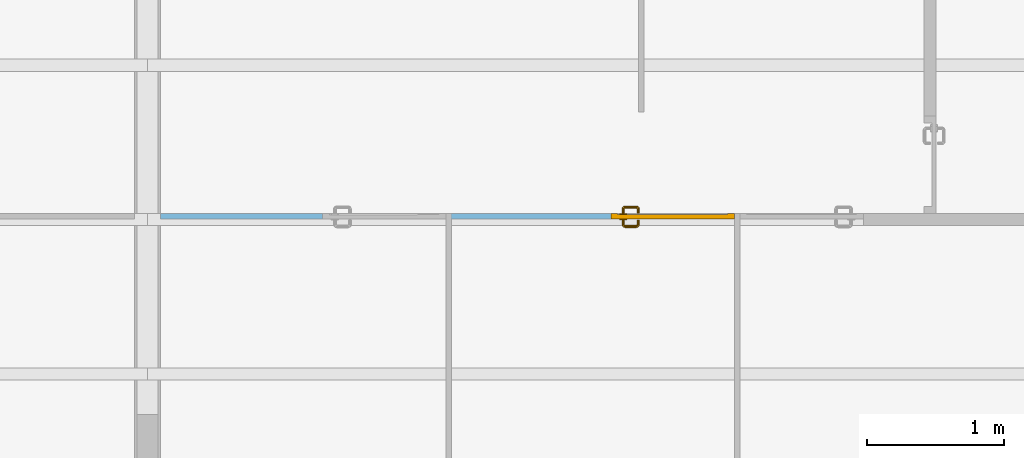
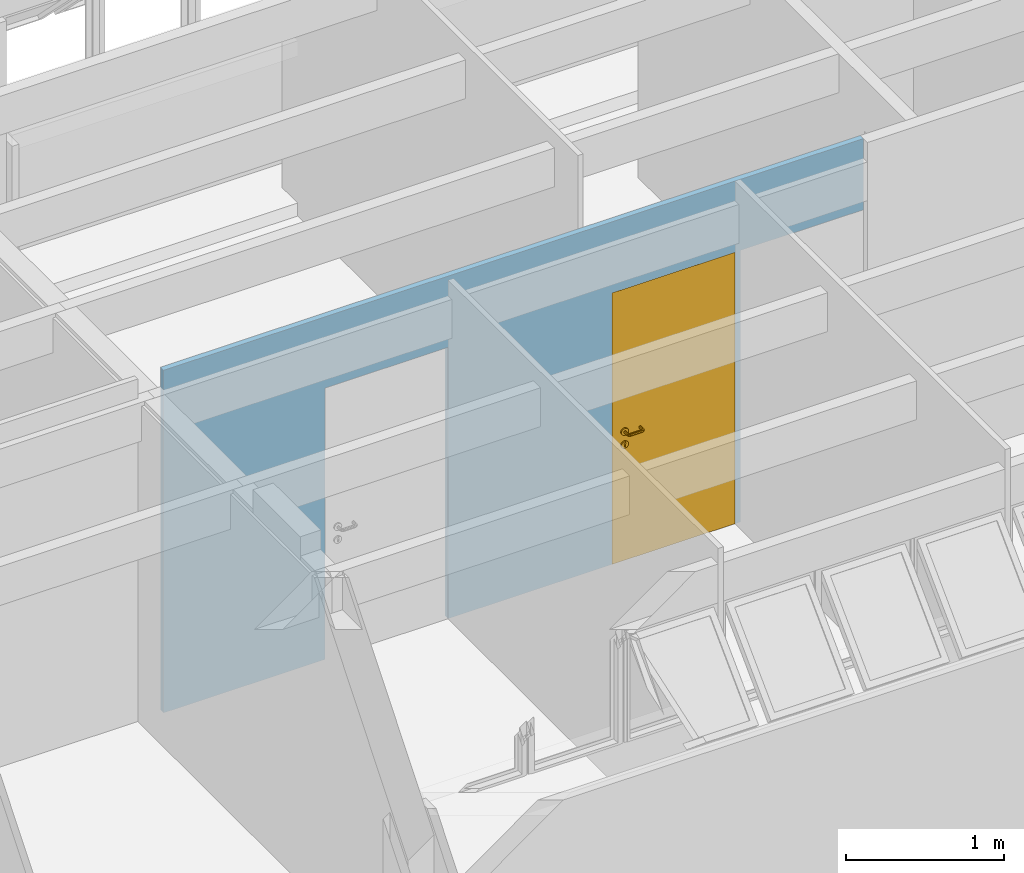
# One storey, part 5 of 22: 1 door, 3 openings, plus 1 element that does not belong to this part.
"""IFC2X3 building model written with IfcOpenShell, lengths in millimetres."""

import ifcopenshell
import ifcopenshell.guid

model = None  # the IFC model being written
_history = None  # IfcOwnerHistory: only IFC2X3 demands one
_inside = {}  # id of a spatial element -> (the spatial element, [elements in it])
_under = {}  # id of a project, library or spatial element -> (it, [spatial elements below it])
_declared = {}  # id of a project -> (the project, [libraries it declares])
_typed = {}  # id of a type object -> (the type object, [elements of that type])
_made_of = {}  # id of a material, layer set ... -> (it, [elements and type objects made of it])


def new_model(schema):
    """Start an empty IFC model of exactly this schema.

    Asked for "IFC4X3", IfcOpenShell would pick the latest addendum, in which some entities
    have other attributes; the version numbers below select the first issue.
    IFC2X3 requires an IfcOwnerHistory on every rooted entity: one is made here for all.
    """
    global model, _history
    if schema == "IFC4X3":
        model = ifcopenshell.file(schema_version=(4, 3, 0, 0))
    else:
        model = ifcopenshell.file(schema=schema)
    _inside.clear()
    _under.clear()
    _declared.clear()
    _typed.clear()
    _made_of.clear()
    _history = None
    if model.schema == "IFC2X3":
        org = make("IfcOrganization", Name="unknown")
        user = make(
            "IfcPersonAndOrganization",
            ThePerson=make("IfcPerson", FamilyName="unknown"),
            TheOrganization=org,
        )
        app = make(
            "IfcApplication",
            ApplicationDeveloper=org,
            Version="unknown",
            ApplicationFullName="unknown",
            ApplicationIdentifier="unknown",
        )
        _history = make(
            "IfcOwnerHistory",
            OwningUser=user,
            OwningApplication=app,
            ChangeAction="ADDED",
            CreationDate=0,
        )
    return model


def make(cls, **values):
    """One entity of the class cls with the attributes given. An attribute that is None is left unset."""
    return model.create_entity(
        cls, **{name: value for name, value in values.items() if value is not None}
    )


def rooted(cls, **values):
    """An entity with a GlobalId (a new one), such as an element, a storey or a relation."""
    return make(cls, GlobalId=ifcopenshell.guid.new(), OwnerHistory=_history, **values)


def si_unit(unit_type, name, prefix=None):
    """IfcSIUnit, for example si_unit("LENGTHUNIT", "METRE", prefix="MILLI")."""
    return make("IfcSIUnit", UnitType=unit_type, Prefix=prefix, Name=name)


def assignment(units):
    """IfcUnitAssignment: the units of a project."""
    return None if units is None else make("IfcUnitAssignment", Units=units)


def point(xyz):
    """IfcCartesianPoint."""
    return None if xyz is None else make("IfcCartesianPoint", Coordinates=xyz)


def direction(xyz):
    """IfcDirection."""
    return None if xyz is None else make("IfcDirection", DirectionRatios=xyz)


def frame(location, z_axis=None, x_axis=None):
    """IfcAxis2Placement3D, a coordinate frame: its origin and axes. An axis left out is left unset."""
    return make(
        "IfcAxis2Placement3D",
        Location=point(location),
        Axis=direction(z_axis),
        RefDirection=direction(x_axis),
    )


def frame_2d(location, x_axis=None):
    """IfcAxis2Placement2D, a coordinate frame in the plane: its origin and x axis."""
    return make(
        "IfcAxis2Placement2D", Location=point(location), RefDirection=direction(x_axis)
    )


def origin_with_axes():
    """The frame at (0, 0, 0) with the z axis (0, 0, 1) and the x axis (1, 0, 0) written out."""
    return frame((0.0, 0.0, 0.0), z_axis=(0.0, 0.0, 1.0), x_axis=(1.0, 0.0, 0.0))


def place(relative_to, where):
    """IfcLocalPlacement: puts the frame where relative to a parent placement (None: the world)."""
    return make(
        "IfcLocalPlacement", PlacementRelTo=relative_to, RelativePlacement=where
    )


def context(
    kind, dimensions, precision=None, world=None, true_north=None, identifier=None
):
    """IfcGeometricRepresentationContext, for example the 3D "Model" context."""
    return make(
        "IfcGeometricRepresentationContext",
        ContextIdentifier=identifier,
        ContextType=kind,
        CoordinateSpaceDimension=dimensions,
        Precision=precision,
        WorldCoordinateSystem=world,
        TrueNorth=true_north,
    )


def subcontext(parent, identifier, kind, view, scale=None):
    """IfcGeometricRepresentationSubContext, for example "Body" below "Model"."""
    return make(
        "IfcGeometricRepresentationSubContext",
        ContextIdentifier=identifier,
        ContextType=kind,
        ParentContext=parent,
        TargetScale=scale,
        TargetView=view,
    )


def project(units=None, contexts=None):
    """IfcProject with its units and contexts."""
    return rooted(
        "IfcProject",
        Name="project",
        RepresentationContexts=contexts,
        UnitsInContext=assignment(units),
    )


def spatial(cls, under=None, at=None, **own):
    """A site, building, storey or space (cls), placed at a placement, below another one or the project."""
    s = rooted(cls, ObjectPlacement=at, **own)
    if under is not None:
        _under.setdefault(under.id(), (under, []))[1].append(s)
    return s


def polyline(points):
    """IfcPolyline through the points."""
    return make("IfcPolyline", Points=[point(p) for p in points])


def profile(cls, at=None, kind="AREA", **sizes):
    """A parametric profile (cls). Its sizes go by their IFC names, for example OverallWidth=200.0."""
    return make(cls, ProfileType=kind, Position=at, **sizes)


def rectangle(**sizes):
    """IfcRectangleProfileDef."""
    return profile("IfcRectangleProfileDef", **sizes)


def outline(outer, holes=None, kind="AREA"):
    """IfcArbitraryClosedProfileDef: a profile drawn as a closed curve; with holes, ...WithVoids."""
    if holes is None:
        return make("IfcArbitraryClosedProfileDef", ProfileType=kind, OuterCurve=outer)
    return make(
        "IfcArbitraryProfileDefWithVoids",
        ProfileType=kind,
        OuterCurve=outer,
        InnerCurves=holes,
    )


def extrude(swept, where, along, depth):
    """IfcExtrudedAreaSolid: the profile swept, set in the frame where, extruded along a direction by depth."""
    return make(
        "IfcExtrudedAreaSolid",
        SweptArea=swept,
        Position=where,
        ExtrudedDirection=direction(along),
        Depth=depth,
    )


def faces_of(points, faces, orient=None, outer=None):
    """IfcFace entities. A face is a list of loops; a loop is a list of indices into points, from 0.

    orient and outer hold one flag for each loop. By default every Orientation is true, the
    first loop of a face is its IfcFaceOuterBound and the others are IfcFaceBound.
    """
    made = []
    for i, loops in enumerate(faces):
        bounds = []
        for j, loop in enumerate(loops):
            is_outer = j == 0 if outer is None else outer[i][j]
            bounds.append(
                make(
                    "IfcFaceOuterBound" if is_outer else "IfcFaceBound",
                    Bound=make("IfcPolyLoop", Polygon=[points[k] for k in loop]),
                    Orientation=True if orient is None else orient[i][j],
                )
            )
        made.append(make("IfcFace", Bounds=bounds))
    return made


def open_shell(faces, orient=None, outer=None):
    """The faces of one IfcOpenShell. surface_model builds it on its shared points."""
    return ("IfcOpenShell", faces, orient, outer)


def faceted_brep(points, faces, orient=None, outer=None, voids=None):
    """IfcFacetedBrep: a solid bounded by flat faces; with voids (closed shells), ...WithVoids."""
    shared = [point(p) for p in points]
    hull = make("IfcClosedShell", CfsFaces=faces_of(shared, faces, orient, outer))
    if voids is None:
        return make("IfcFacetedBrep", Outer=hull)
    return make(
        "IfcFacetedBrepWithVoids",
        Outer=hull,
        Voids=[
            make(cls, CfsFaces=faces_of(shared, fs, o, b)) for cls, fs, o, b in voids
        ],
    )


def surface_model(cls, points, shells):
    """IfcFaceBasedSurfaceModel or IfcShellBasedSurfaceModel (cls): surfaces that need not close."""
    shared = [point(p) for p in points]
    made = [make(c, CfsFaces=faces_of(shared, fs, o, b)) for c, fs, o, b in shells]
    if cls == "IfcFaceBasedSurfaceModel":
        return make(cls, FbsmFaces=made)
    return make(cls, SbsmBoundary=made)


def shape(context_of_items, identifier, shape_type, items):
    """IfcShapeRepresentation: the items that make up one representation, for example the "Body"."""
    return make(
        "IfcShapeRepresentation",
        ContextOfItems=context_of_items,
        RepresentationIdentifier=identifier,
        RepresentationType=shape_type,
        Items=items,
    )


def source(mapping_origin, context_of_items, identifier, shape_type, items):
    """IfcRepresentationMap: a shape defined once, which mapped items show again and again."""
    return make(
        "IfcRepresentationMap",
        MappingOrigin=mapping_origin,
        MappedRepresentation=shape(context_of_items, identifier, shape_type, items),
    )


def transform(
    local_origin,
    x_axis=None,
    y_axis=None,
    z_axis=None,
    scale=None,
    scale2=None,
    scale3=None,
    uniform=True,
):
    """IfcCartesianTransformationOperator3D, or its non-uniform kind. x_axis, y_axis, z_axis: its Axis1, 2, 3."""
    if uniform:
        return make(
            "IfcCartesianTransformationOperator3D",
            Axis1=direction(x_axis),
            Axis2=direction(y_axis),
            LocalOrigin=point(local_origin),
            Scale=scale,
            Axis3=direction(z_axis),
        )
    return make(
        "IfcCartesianTransformationOperator3DnonUniform",
        Axis1=direction(x_axis),
        Axis2=direction(y_axis),
        LocalOrigin=point(local_origin),
        Scale=scale,
        Axis3=direction(z_axis),
        Scale2=scale2,
        Scale3=scale3,
    )


def mapped(mapping_source, mapping_target):
    """IfcMappedItem: shows the shape of a source again, moved by a transform."""
    return make(
        "IfcMappedItem", MappingSource=mapping_source, MappingTarget=mapping_target
    )


def material(Name=None, Category=None):
    """IfcMaterial."""
    return make("IfcMaterial", Name=Name, Category=Category)


def layer(
    of_material, thickness, ventilated=None, Name=None, Category=None, Priority=None
):
    """IfcMaterialLayer: one layer of a wall or slab, of a material (None: an air gap)."""
    return make(
        "IfcMaterialLayer",
        Material=of_material,
        LayerThickness=thickness,
        IsVentilated=ventilated,
        Name=Name,
        Category=Category,
        Priority=Priority,
    )


def layer_set(layers, Name=None):
    """IfcMaterialLayerSet."""
    return make("IfcMaterialLayerSet", MaterialLayers=layers, LayerSetName=Name)


def layer_usage(for_layer_set, set_direction, sense, offset, extent=None):
    """IfcMaterialLayerSetUsage: how a layer set lies in its element."""
    return make(
        "IfcMaterialLayerSetUsage",
        ForLayerSet=for_layer_set,
        LayerSetDirection=set_direction,
        DirectionSense=sense,
        OffsetFromReferenceLine=offset,
        ReferenceExtent=extent,
    )


def made_of(thing, what):
    """Note that an element or type object is made of a material, layer set ...; save() writes the relation."""
    if what is not None:
        _made_of.setdefault(what.id(), (what, []))[1].append(thing)
    return thing


def type_object(cls, material=None, **own):
    """A type object (cls), such as IfcWallType, which elements share."""
    return made_of(rooted(cls, **own), material)


def type_shapes(of_type, sources):
    """Give a type object the sources (RepresentationMaps) that its elements show as mapped items."""
    of_type.RepresentationMaps = sources


def element(
    cls,
    number,
    at=None,
    inside=None,
    cuts=None,
    type_object=None,
    material=None,
    context=None,
    identifier="Body",
    shape_type=None,
    held_by="IfcProductDefinitionShape",
    body=None,
    shapes=None,
    **own,
):
    """One element of the class cls, such as IfcWall. Its Tag is "e" and its number.

    at: its placement. inside: the storey or other place that contains it. cuts: it is an
    opening in that element (IfcRelVoidsElement). A single representation is given by context,
    identifier, shape_type and body (its items); several are given by shapes. held_by: the class
    of the entity that holds the representations. save() writes the other relations.
    """
    e = rooted(cls, Tag="e%d" % number, ObjectPlacement=at, **own)
    if body is not None:
        shapes = [shape(context, identifier, shape_type, body)]
    if shapes is not None:
        e.Representation = make(held_by, Representations=shapes)
    if inside is not None:
        _inside.setdefault(inside.id(), (inside, []))[1].append(e)
    if cuts is not None:
        rooted(
            "IfcRelVoidsElement", RelatingBuildingElement=cuts, RelatedOpeningElement=e
        )
    if type_object is not None:
        _typed.setdefault(type_object.id(), (type_object, []))[1].append(e)
    return made_of(e, material)


def fill(opening, filler):
    """IfcRelFillsElement: the door or window that sits in an opening."""
    return rooted(
        "IfcRelFillsElement",
        RelatingOpeningElement=opening,
        RelatedBuildingElement=filler,
    )


def aggregate(whole, parts):
    """IfcRelAggregates: a whole, such as a stair, and the parts it consists of."""
    return rooted("IfcRelAggregates", RelatingObject=whole, RelatedObjects=parts)


def save(model, path):
    """Write the relations noted so far, then the file.

    IfcRelAggregates (storeys below a building ...), IfcRelContainedInSpatialStructure (elements
    in a storey), IfcRelDefinesByType, IfcRelAssociatesMaterial and IfcRelDeclares: one each for
    every whole, place, type object, material and project.
    """
    for whole, parts in _under.values():
        aggregate(whole, parts)
    for where, things in _inside.values():
        rooted(
            "IfcRelContainedInSpatialStructure",
            RelatedElements=things,
            RelatingStructure=where,
        )
    for kind, things in _typed.values():
        rooted("IfcRelDefinesByType", RelatedObjects=things, RelatingType=kind)
    for what, things in _made_of.values():
        rooted("IfcRelAssociatesMaterial", RelatedObjects=things, RelatingMaterial=what)
    for by, libraries in _declared.values():
        rooted("IfcRelDeclares", RelatingContext=by, RelatedDefinitions=libraries)
    model.write(path)


model = new_model("IFC2X3")

# Units and contexts
model_context = context("Model", 3, precision=1e-05, world=origin_with_axes(), true_north=direction((0.0, 1.0)))
body_context = subcontext(model_context, "Body", "Model", "MODEL_VIEW")
ifc_project = project(units=[si_unit("LENGTHUNIT", "METRE", prefix="MILLI"), si_unit("AREAUNIT", "SQUARE_METRE"), si_unit("VOLUMEUNIT", "CUBIC_METRE"), si_unit("PLANEANGLEUNIT", "RADIAN"), si_unit("TIMEUNIT", "SECOND"), si_unit("MASSUNIT", "GRAM")], contexts=[model_context])

# Site, building, storey
site_placement = place(None, origin_with_axes())
site = spatial("IfcSite", under=ifc_project, at=site_placement, Name="Site", CompositionType="ELEMENT")
building_placement = place(site_placement, origin_with_axes())
building = spatial("IfcBuilding", under=site, at=building_placement, Name="Construção", CompositionType="COMPLEX")
storey_placement = place(building_placement, frame((0.0, 0.0, 2650.0), z_axis=(0.0, 0.0, 1.0), x_axis=(1.0, 0.0, 0.0)))
storey = spatial("IfcBuildingStorey", under=building, at=storey_placement, Name="Segundo Pavimento", CompositionType="COMPLEX", Elevation=2650.0)

# Wall, openings, door
ifc_material = material(Name="GENÉRICO - VEDAÇÃO EXTERNA")
ifc_layer = layer(ifc_material, 40.0)
ifc_layer_set = layer_set([ifc_layer], Name="GENÉRICO - VEDAÇÃO EXTERNA 40")
ifc_layer_usage = layer_usage(ifc_layer_set, "AXIS2", "POSITIVE", 0.0)
wall_type = type_object("IfcWallType", Name="GENÉRICO - VEDAÇÃO EXTERNA 40", PredefinedType="STANDARD", material=ifc_layer_set)
wall_placement = place(storey_placement, frame((12600.0, 3765.2195667, 0.0), z_axis=(0.0, 0.0, 1.0), x_axis=(-0.9999999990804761, -4.288412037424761e-05, 0.0)))
wall = element("IfcWallStandardCase", 1, at=wall_placement, inside=storey, type_object=wall_type, material=ifc_layer_usage, Name="APTO6-PAREDE-006", context=body_context, shape_type="SweptSolid", body=[
    extrude(outline(polyline([(-2559.999787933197, 20.0), (2560.001074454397, 19.99999999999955), (2559.999359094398, -20.0), (-2560.000645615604, -20.0), (-2559.999787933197, 20.0)])), frame((2560.000645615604, 20.0, 0.0), z_axis=(0.0, 0.0, 1.0), x_axis=(1.0, 0.0, 0.0)), (0.0, 0.0, 1.0), 2650.0),
])
opening_1_placement = place(wall_placement, frame((1840.000004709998, 40.0, 0.0), z_axis=(0.0, 0.0, 1.0), x_axis=(-1.0, 0.0, 0.0)))
opening_1 = element("IfcOpeningElement", 2, at=opening_1_placement, cuts=wall, ObjectType="Opening", context=body_context, shape_type="SweptSolid", body=[
    extrude(outline(polyline([(450.0, 1050.0), (450.0, -1050.0), (-450.0, -1050.0), (-450.0, 1050.0), (450.0, 1050.0)])), frame((450.0, 1.364242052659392e-12, 1050.000000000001), z_axis=(0.0, 1.0, 0.0), x_axis=(1.0, 0.0, 0.0)), (0.0, 0.0, 1.0), 120.0),
])
opening_2_placement = place(wall_placement, frame((900.0000047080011, 40.0, 0.0), z_axis=(0.0, 0.0, 1.0), x_axis=(-1.0, 0.0, 0.0)))
element("IfcOpeningElement", 3, at=opening_2_placement, cuts=wall, ObjectType="Opening", context=body_context, shape_type="SweptSolid", body=[
    extrude(outline(polyline([(-450.0, -1050.0), (-450.0, 1050.0), (450.0, 1050.0), (450.0, -1050.0), (-450.0, -1050.0)])), frame((450.0, 1.364242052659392e-12, 1050.000000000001), z_axis=(0.0, 1.0, 0.0), x_axis=(1.0, 0.0, 0.0)), (0.0, 0.0, 1.0), 120.0),
])
opening_3_placement = place(wall_placement, frame((3940.00000471, 40.0, 0.0), z_axis=(0.0, 0.0, 1.0), x_axis=(-1.0, 0.0, 0.0)))
element("IfcOpeningElement", 4, at=opening_3_placement, cuts=wall, ObjectType="Opening", context=body_context, shape_type="SweptSolid", body=[
    extrude(outline(polyline([(450.0, 1050.0), (450.0, -1050.0), (-450.0, -1050.0), (-450.0, 1050.0), (450.0, 1050.0)])), frame((450.0, 1.364242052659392e-12, 1050.000000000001), z_axis=(0.0, 1.0, 0.0), x_axis=(1.0, 0.0, 0.0)), (0.0, 0.0, 1.0), 120.0),
])
door_style = type_object("IfcDoorStyle", Name="Porta 25", ConstructionType="NOTDEFINED", OperationType="SINGLE_SWING_LEFT", ParameterTakesPrecedence=False, Sizeable=False)
shared_shape_1 = source(origin_with_axes(), body_context, "Body", "SolidModel", [
    extrude(outline(polyline([(10.0, 6.666666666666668), (10.0, -23.33333333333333), (-30.0, -23.33333333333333), (-30.0, 16.66666666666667), (20.0, 16.66666666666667), (20.0, 6.666666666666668), (10.0, 6.666666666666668)])), frame((29.9999999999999, 0.0, -23.33333333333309), z_axis=(0.0, 1.0, 0.0), x_axis=(1.0, 0.0, 0.0)), (0.0, 0.0, 1.0), 2050.0),
])
shared_shape_2 = source(origin_with_axes(), body_context, "Body", "SolidModel", [
    extrude(outline(polyline([(-10.0, 6.666666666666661), (-20.0, 6.666666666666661), (-20.0, 16.66666666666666), (30.0, 16.66666666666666), (30.0, -23.33333333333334), (-10.0, -23.33333333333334), (-10.0, 6.666666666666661)])), frame((869.9999999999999, 0.0, -23.3333333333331), z_axis=(0.0, 1.0, 0.0), x_axis=(1.0, 0.0, 0.0)), (0.0, 0.0, 1.0), 2050.0),
])
shared_shape_3 = source(origin_with_axes(), body_context, "Body", "SolidModel", [
    faceted_brep([(899.9999999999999, 2050.0, -39.99999999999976), (0.0, 2050.0, -39.99999999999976), (0.0, 2100.0, -39.99999999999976), (899.9999999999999, 2100.0, -39.99999999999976), (859.9999999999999, 2050.0, -29.99999999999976), (859.9999999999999, 2060.0, -29.99999999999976), (39.99999999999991, 2060.0, -29.99999999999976), (39.99999999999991, 2050.0, -29.99999999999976), (39.99999999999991, 2050.0, 0.0), (39.99999999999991, 2060.0, 0.0), (0.0, 2050.0, 0.0), (0.0, 2100.0, 0.0), (899.9999999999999, 2100.0, 0.0), (899.9999999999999, 2050.0, 0.0), (859.9999999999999, 2050.0, 0.0), (859.9999999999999, 2060.0, 0.0)], [[[0, 1, 2, 3]], [[4, 5, 6, 7]], [[8, 7, 6, 9]], [[10, 11, 2, 1]], [[11, 12, 3, 2]], [[12, 13, 0, 3]], [[4, 7, 8, 10, 1, 0, 13, 14]], [[15, 5, 4, 14]], [[9, 6, 5, 15]], [[9, 15, 14, 13, 12, 11, 10, 8]]]),
])
shared_shape_4 = source(origin_with_axes(), body_context, "Body", "SolidModel", [
    extrude(outline(polyline([(0.0, 27.00000000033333), (13.49999999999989, 23.38268590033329), (23.38268590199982, 13.50000000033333), (26.99999999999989, 3.333298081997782e-10), (23.38268590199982, -13.49999999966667), (13.49999999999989, -23.38268590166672), (0.0, -26.99999999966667), (-13.50000000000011, -23.38268590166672), (-23.38268590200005, -13.49999999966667), (-27.0, 3.333298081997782e-10), (-23.38268590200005, 13.50000000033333), (-13.50000000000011, 23.38268590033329), (0.0, 27.00000000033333)])), frame((90.0, 999.9999999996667, -40.0), z_axis=(0.0, 0.0, 1.0), x_axis=(1.0, 0.0, 0.0)), (0.0, 0.0, 1.0), 10.0),
])
shared_shape_5 = source(origin_with_axes(), body_context, "Body", "SolidModel", [
    faceted_brep([(67.48333950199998, 913.0, -39.0), (67.48333950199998, 913.0, -30.0), (64.0, 900.0, -30.0), (64.0, 900.0, -39.0), (67.48333950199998, 887.0, -39.0), (67.48333950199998, 887.0, -30.0), (77.0, 877.483339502, -30.0), (77.0, 877.483339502, -39.0), (66.61731409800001, 886.5, -30.0), (66.61731409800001, 886.5, -40.0), (76.5, 876.617314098, -40.0), (76.5, 876.617314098, -30.0), (63.0, 900.0, -30.0), (63.0, 900.0, -40.0), (76.5, 923.382685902, -30.0), (76.5, 923.382685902, -40.0), (66.61731409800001, 913.5, -40.0), (66.61731409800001, 913.5, -30.0), (90.0, 874.0, -30.0), (90.0, 874.0, -39.0), (90.0, 926.0, -30.0), (103.0, 922.516660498, -30.0), (112.516660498, 913.0, -30.0), (116.0, 900.0, -30.0), (112.516660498, 887.0, -30.0), (103.0, 877.483339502, -30.0), (77.0, 922.516660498, -30.0), (113.382685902, 913.5, -30.0), (103.5, 923.382685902, -30.0), (90.0, 927.0, -30.0), (90.0, 873.0, -30.0), (103.5, 876.617314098, -30.0), (113.382685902, 886.5, -30.0), (117.0, 900.0, -30.0), (90.0, 873.0, -40.0), (77.0, 922.516660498, -39.0), (103.5, 876.617314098, -40.0), (113.382685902, 886.5, -40.0), (117.0, 900.0, -40.0), (112.516660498, 887.0, -39.0), (116.0, 900.0, -39.0), (103.0, 877.483339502, -39.0), (82.53216922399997, 909.692280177, -40.0), (82.53216922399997, 909.692280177, -39.0), (85.0, 904.4, -39.0), (85.0, 904.4, -40.0), (90.0, 927.0, -40.0), (112.516660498, 913.0, -39.0), (90.0, 926.0, -39.0), (103.0, 922.516660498, -39.0), (85.0, 887.5, -39.0), (85.0, 887.5, -40.0), (86.46446609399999, 883.964466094, -40.0), (86.46446609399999, 883.964466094, -39.0), (90.0, 882.5, -40.0), (90.0, 882.5, -39.0), (93.53553390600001, 883.964466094, -40.0), (93.53553390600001, 883.964466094, -39.0), (95.0, 887.5, -40.0), (95.0, 887.5, -39.0), (84.62481768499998, 915.143815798, -40.0), (84.62481768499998, 915.143815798, -39.0), (83.279754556, 911.639806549, -39.0), (83.279754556, 911.639806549, -40.0), (90.0, 917.425445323, -40.0), (90.0, 917.425445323, -39.0), (103.5, 923.382685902, -40.0), (113.382685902, 913.5, -40.0), (95.37518231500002, 915.143815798, -40.0), (95.37518231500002, 915.143815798, -39.0), (96.720245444, 911.639806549, -39.0), (97.46783077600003, 909.692280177, -39.0), (95.0, 904.4, -39.0), (95.0, 904.4, -40.0), (97.46783077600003, 909.692280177, -40.0), (96.720245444, 911.639806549, -40.0)], [[[0, 1, 2, 3]], [[4, 5, 6, 7]], [[3, 2, 5, 4]], [[8, 9, 10, 11]], [[12, 13, 9, 8]], [[14, 15, 16, 17]], [[7, 6, 18, 19]], [[20, 21, 22, 23, 24, 25, 18, 6, 5, 2, 1, 26], [27, 28, 29, 14, 17, 12, 8, 11, 30, 31, 32, 33]], [[17, 16, 13, 12]], [[11, 10, 34, 30]], [[35, 26, 1, 0]], [[30, 34, 36, 31]], [[31, 36, 37, 32]], [[32, 37, 38, 33]], [[39, 24, 23, 40]], [[41, 25, 24, 39]], [[42, 43, 44, 45]], [[29, 46, 15, 14]], [[40, 23, 22, 47]], [[48, 20, 26, 35]], [[47, 22, 21, 49]], [[19, 18, 25, 41]], [[44, 50, 51, 45]], [[52, 51, 50, 53]], [[54, 52, 53, 55]], [[49, 21, 20, 48]], [[56, 54, 55, 57]], [[58, 56, 57, 59]], [[60, 61, 62, 43, 42, 63]], [[64, 65, 61, 60]], [[28, 66, 46, 29]], [[33, 38, 67, 27]], [[27, 67, 66, 28]], [[68, 69, 65, 64]], [[47, 49, 48, 35, 0, 3, 4, 7, 19, 41, 39, 40], [69, 70, 71, 72, 59, 57, 55, 53, 50, 44, 43, 62, 61, 65]], [[73, 72, 71, 74]], [[73, 58, 59, 72]], [[74, 71, 70, 69, 68, 75]], [[66, 67, 38, 37, 36, 34, 10, 9, 13, 16, 15, 46], [74, 75, 68, 64, 60, 63, 42, 45, 51, 52, 54, 56, 58, 73]]], outer=[[True], [True], [True], [True], [True], [True], [True], [False, True], [True], [True], [True], [True], [True], [True], [True], [True], [True], [True], [True], [True], [True], [True], [True], [True], [True], [True], [True], [True], [True], [True], [True], [True], [True], [True], [True, False], [True], [True], [True], [True, False]]),
])
shared_shape_6 = source(origin_with_axes(), body_context, "Body", "SurfaceModel", [
    surface_model("IfcShellBasedSurfaceModel", [(190.0, 1000.0, -69.0150859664), (190.0, 1000.0, -40.0), (192.928932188, 1007.07106781, -40.0), (192.928932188, 1007.07106781, -69.303560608), (189.438398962, 1000.0, -71.83844504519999), (192.197392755, 1007.07106781, -72.9812576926), (192.928932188, 992.928932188, -69.303560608), (192.928932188, 992.928932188, -40.0), (192.197392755, 992.928932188, -72.9812576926), (200.0, 990.0, -70.0), (200.0, 990.0, -40.0), (200.0, 1010.0, -40.0), (200.0, 1010.0, -70.0), (207.071067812, 992.928932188, -70.696439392), (207.071067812, 992.928932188, -40.0), (210.0, 1000.0, -40.0), (207.071067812, 1007.07106781, -40.0), (205.518993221, 992.928932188, -78.49924527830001), (198.858192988, 990.0, -75.74025148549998), (210.0, 1000.0, -70.9849140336), (208.277987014, 1000.0, -79.6420579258), (207.071067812, 1007.07106781, -70.696439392), (205.518993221, 1007.07106781, -78.49924527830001), (200.704557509, 1007.07106781, -85.70455750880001), (202.816199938, 1000.0, -87.8161999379), (198.858192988, 1010.0, -75.74025148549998), (195.606601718, 1010.0, -80.6066017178), (190.740251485, 1010.0, -83.8581929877), (193.499245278, 1007.07106781, -90.51899322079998), (190.508645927, 1007.07106781, -75.5086459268), (187.981257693, 1007.07106781, -77.19739275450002), (188.397003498, 1000.0, -73.39700349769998), (186.838445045, 1000.0, -74.43839896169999), (190.508645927, 992.928932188, -75.5086459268), (200.704557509, 992.928932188, -85.70455750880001), (195.606601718, 990.0, -80.6066017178), (187.981257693, 992.928932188, -77.19739275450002), (184.303560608, 992.928932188, -77.92893218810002), (184.015085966, 1000.0, -75.0), (190.740251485, 990.0, -83.8581929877), (184.303560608, 1007.07106781, -77.92893218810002), (185.0, 1010.0, -85.0), (105.984914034, 1000.0, -75.0), (105.696439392, 1007.07106781, -77.92893218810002), (105.0, 1010.0, -85.0), (185.696439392, 1007.07106781, -92.07106781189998), (104.303560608, 1007.07106781, -92.07106781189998), (105.696439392, 992.928932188, -77.92893218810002), (185.0, 990.0, -85.0), (102.018742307, 1007.07106781, -77.19739275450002), (99.25974851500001, 1010.0, -83.8581929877), (193.499245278, 992.928932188, -90.51899322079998), (105.0, 990.0, -85.0), (102.018742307, 992.928932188, -77.19739275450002), (103.161554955, 1000.0, -74.43839896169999), (99.491354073, 992.928932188, -75.5086459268), (101.602996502, 1000.0, -73.39700349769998), (99.491354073, 1007.07106781, -75.5086459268), (194.642057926, 1000.0, -93.2779870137), (185.696439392, 992.928932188, -92.07106781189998), (185.984914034, 1000.0, -95.0), (104.015085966, 1000.0, -95.0), (104.303560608, 992.928932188, -92.07106781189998), (99.25974851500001, 990.0, -83.8581929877), (95.357942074, 1000.0, -93.2779870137), (96.50075472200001, 992.928932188, -90.51899322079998), (96.50075472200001, 1007.07106781, -90.51899322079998), (89.29544249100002, 1007.07106781, -85.70455750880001), (87.18380006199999, 1000.0, -87.8161999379), (94.39339828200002, 1010.0, -80.6066017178), (97.80260724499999, 1007.07106781, -72.9812576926), (91.14180701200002, 1010.0, -75.74025148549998), (84.48100677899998, 1007.07106781, -78.49924527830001), (94.39339828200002, 990.0, -80.6066017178), (91.14180701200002, 990.0, -75.74025148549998), (97.80260724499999, 992.928932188, -72.9812576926), (89.29544249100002, 992.928932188, -85.70455750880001), (100.561601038, 1000.0, -71.83844504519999), (97.07106781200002, 992.928932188, -69.303560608), (100.0, 1000.0, -69.0150859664), (97.07106781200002, 1007.07106781, -69.303560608), (97.07106781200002, 992.928932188, -40.0), (100.0, 1000.0, -40.0), (90.0, 1010.0, -70.0), (97.07106781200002, 1007.07106781, -40.0), (90.0, 1010.0, -40.0), (82.92893218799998, 1007.07106781, -70.696439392), (82.92893218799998, 1007.07106781, -40.0), (90.0, 990.0, -40.0), (90.0, 990.0, -70.0), (84.48100677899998, 992.928932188, -78.49924527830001), (81.72201298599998, 1000.0, -79.6420579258), (82.92893218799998, 992.928932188, -70.696439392), (80.0, 1000.0, -70.9849140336), (82.92893218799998, 992.928932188, -40.0), (80.0, 1000.0, -40.0)], [open_shell([[[0, 1, 2, 3]], [[4, 0, 3, 5]], [[6, 7, 1, 0]], [[8, 6, 0, 4]], [[9, 10, 7, 6]], [[3, 2, 11, 12]], [[13, 14, 10, 9]], [[15, 16, 11, 2, 1, 7, 10, 14]], [[17, 13, 9, 18]], [[19, 15, 14, 13]], [[20, 19, 13, 17]], [[21, 16, 15, 19]], [[22, 21, 19, 20]], [[12, 11, 16, 21]], [[23, 22, 20, 24]], [[25, 12, 21, 22]], [[26, 25, 22, 23]], [[5, 3, 12, 25]], [[27, 26, 23, 28]], [[29, 5, 25, 26]], [[30, 29, 26, 27]], [[31, 4, 5, 29]], [[32, 31, 29, 30]], [[33, 8, 4, 31]], [[18, 9, 6, 8]], [[34, 17, 18, 35]], [[36, 33, 31, 32]], [[35, 18, 8, 33]], [[37, 36, 32, 38]], [[39, 35, 33, 36]], [[38, 32, 30, 40]], [[40, 30, 27, 41]], [[42, 38, 40, 43]], [[44, 41, 45, 46]], [[47, 37, 38, 42]], [[48, 39, 36, 37]], [[43, 40, 41, 44]], [[49, 43, 44, 50]], [[51, 34, 35, 39]], [[24, 20, 17, 34]], [[52, 48, 37, 47]], [[53, 47, 42, 54]], [[54, 42, 43, 49]], [[55, 53, 54, 56]], [[56, 54, 49, 57]], [[28, 23, 24, 58]], [[41, 27, 28, 45]], [[59, 51, 39, 48]], [[58, 24, 34, 51]], [[45, 28, 58, 60]], [[60, 58, 51, 59]], [[46, 45, 60, 61]], [[61, 60, 59, 62]], [[63, 52, 47, 53]], [[62, 59, 48, 52]], [[64, 61, 62, 65]], [[65, 62, 52, 63]], [[66, 46, 61, 64]], [[67, 66, 64, 68]], [[50, 44, 46, 66]], [[57, 49, 50, 69]], [[69, 50, 66, 67]], [[70, 57, 69, 71]], [[71, 69, 67, 72]], [[73, 63, 53, 55]], [[74, 73, 55, 75]], [[76, 65, 63, 73]], [[75, 55, 56, 77]], [[77, 56, 57, 70]], [[78, 75, 77, 79]], [[79, 77, 70, 80]], [[81, 78, 79, 82]], [[80, 70, 71, 83]], [[82, 79, 80, 84]], [[84, 80, 83, 85]], [[85, 83, 86, 87]], [[88, 89, 78, 81]], [[89, 74, 75, 78]], [[90, 76, 73, 74]], [[68, 64, 65, 76]], [[72, 67, 68, 91]], [[83, 71, 72, 86]], [[92, 90, 74, 89]], [[91, 68, 76, 90]], [[86, 72, 91, 93]], [[94, 92, 89, 88]], [[93, 91, 90, 92]], [[87, 86, 93, 95]], [[95, 93, 92, 94]]])]),
])
shared_shape_7 = source(origin_with_axes(), body_context, "Body", "SolidModel", [
    extrude(outline(polyline([(0.0, 27.00000000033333), (13.49999999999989, 23.38268590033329), (23.38268590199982, 13.50000000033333), (26.99999999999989, 3.333298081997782e-10), (23.38268590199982, -13.49999999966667), (13.49999999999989, -23.38268590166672), (0.0, -26.99999999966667), (-13.50000000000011, -23.38268590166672), (-23.38268590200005, -13.49999999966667), (-27.0, 3.333298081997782e-10), (-23.38268590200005, 13.50000000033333), (-13.50000000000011, 23.38268590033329), (0.0, 27.00000000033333)])), frame((90.0, 999.9999999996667, 0.0), z_axis=(0.0, 0.0, 1.0), x_axis=(1.0, 0.0, 0.0)), (0.0, 0.0, 1.0), 10.0),
])
shared_shape_8 = source(origin_with_axes(), body_context, "Body", "SolidModel", [
    faceted_brep([(64.0, 900.0, 9.0), (67.48333950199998, 887.0, 9.0), (67.48333950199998, 887.0, 0.0), (64.0, 900.0, 0.0), (63.0, 900.0, 10.0), (63.0, 900.0, 0.0), (66.61731409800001, 886.5, 0.0), (66.61731409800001, 886.5, 10.0), (67.48333950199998, 913.0, 9.0), (67.48333950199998, 913.0, 0.0), (76.5, 876.617314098, 0.0), (76.5, 876.617314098, 10.0), (66.61731409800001, 913.5, 10.0), (66.61731409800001, 913.5, 0.0), (76.5, 923.382685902, 10.0), (76.5, 923.382685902, 0.0), (77.0, 877.483339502, 9.0), (77.0, 877.483339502, 0.0), (77.0, 922.516660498, 9.0), (77.0, 922.516660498, 0.0), (90.0, 873.0, 0.0), (90.0, 873.0, 10.0), (103.5, 876.617314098, 0.0), (103.5, 876.617314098, 10.0), (90.0, 927.0, 0.0), (103.5, 923.382685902, 0.0), (113.382685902, 913.5, 0.0), (117.0, 900.0, 0.0), (113.382685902, 886.5, 0.0), (112.516660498, 913.0, 0.0), (103.0, 922.516660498, 0.0), (90.0, 926.0, 0.0), (90.0, 874.0, 0.0), (103.0, 877.483339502, 0.0), (112.516660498, 887.0, 0.0), (116.0, 900.0, 0.0), (90.0, 882.5, 9.0), (86.46446609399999, 883.964466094, 9.0), (86.46446609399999, 883.964466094, 10.0), (90.0, 882.5, 10.0), (90.0, 927.0, 10.0), (85.0, 887.5, 9.0), (85.0, 887.5, 10.0), (113.382685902, 886.5, 10.0), (117.0, 900.0, 10.0), (113.382685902, 913.5, 10.0), (90.0, 874.0, 9.0), (103.0, 877.483339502, 9.0), (112.516660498, 887.0, 9.0), (103.5, 923.382685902, 10.0), (93.53553390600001, 883.964466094, 9.0), (93.53553390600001, 883.964466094, 10.0), (95.0, 887.5, 9.0), (95.0, 887.5, 10.0), (116.0, 900.0, 9.0), (112.516660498, 913.0, 9.0), (85.0, 904.4, 10.0), (85.0, 904.4, 9.0), (82.53216922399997, 909.692280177, 9.0), (82.53216922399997, 909.692280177, 10.0), (84.62481768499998, 915.143815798, 9.0), (84.62481768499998, 915.143815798, 10.0), (83.279754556, 911.639806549, 10.0), (83.279754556, 911.639806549, 9.0), (90.0, 917.425445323, 9.0), (90.0, 917.425445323, 10.0), (90.0, 926.0, 9.0), (103.0, 922.516660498, 9.0), (95.37518231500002, 915.143815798, 9.0), (95.37518231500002, 915.143815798, 10.0), (96.720245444, 911.639806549, 10.0), (97.46783077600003, 909.692280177, 10.0), (95.0, 904.4, 10.0), (95.0, 904.4, 9.0), (97.46783077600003, 909.692280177, 9.0), (96.720245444, 911.639806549, 9.0)], [[[0, 1, 2, 3]], [[4, 5, 6, 7]], [[8, 0, 3, 9]], [[7, 6, 10, 11]], [[12, 13, 5, 4]], [[14, 15, 13, 12]], [[1, 16, 17, 2]], [[18, 8, 9, 19]], [[11, 10, 20, 21]], [[21, 20, 22, 23]], [[24, 25, 26, 27, 28, 22, 20, 10, 6, 5, 13, 15], [29, 30, 31, 19, 9, 3, 2, 17, 32, 33, 34, 35]], [[36, 37, 38, 39]], [[40, 24, 15, 14]], [[37, 41, 42, 38]], [[43, 28, 27, 44]], [[44, 27, 26, 45]], [[23, 22, 28, 43]], [[16, 46, 32, 17]], [[46, 47, 33, 32]], [[47, 48, 34, 33]], [[49, 25, 24, 40]], [[50, 36, 39, 51]], [[52, 50, 51, 53]], [[45, 26, 25, 49]], [[48, 54, 35, 34]], [[54, 55, 29, 35]], [[56, 42, 41, 57]], [[58, 59, 56, 57]], [[60, 61, 62, 59, 58, 63]], [[64, 65, 61, 60]], [[66, 18, 19, 31]], [[67, 66, 31, 30]], [[55, 67, 30, 29]], [[68, 69, 65, 64]], [[45, 49, 40, 14, 12, 4, 7, 11, 21, 23, 43, 44], [69, 70, 71, 72, 53, 51, 39, 38, 42, 56, 59, 62, 61, 65]], [[73, 72, 71, 74]], [[73, 52, 53, 72]], [[74, 71, 70, 69, 68, 75]], [[66, 67, 55, 54, 48, 47, 46, 16, 1, 0, 8, 18], [74, 75, 68, 64, 60, 63, 58, 57, 41, 37, 36, 50, 52, 73]]]),
])
shared_shape_9 = source(origin_with_axes(), body_context, "Body", "SurfaceModel", [
    surface_model("IfcShellBasedSurfaceModel", [(192.928932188, 1007.07106781, 39.303560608), (200.0, 1010.0, 40.0), (200.0, 1010.0, 10.0), (192.928932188, 1007.07106781, 10.0), (190.0, 1000.0, 39.0150859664), (190.0, 1000.0, 10.0), (192.928932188, 992.928932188, 39.303560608), (192.928932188, 992.928932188, 10.0), (200.0, 990.0, 40.0), (200.0, 990.0, 10.0), (192.197392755, 992.928932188, 42.9812576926), (189.438398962, 1000.0, 41.8384450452), (210.0, 1000.0, 10.0), (207.071067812, 992.928932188, 10.0), (207.071067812, 1007.07106781, 10.0), (192.197392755, 1007.07106781, 42.9812576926), (188.397003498, 1000.0, 43.3970034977), (190.508645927, 1007.07106781, 45.5086459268), (195.606601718, 1010.0, 50.6066017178), (198.858192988, 1010.0, 45.7402514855), (207.071067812, 992.928932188, 40.696439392), (198.858192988, 990.0, 45.7402514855), (190.508645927, 992.928932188, 45.5086459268), (186.838445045, 1000.0, 44.4383989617), (187.981257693, 1007.07106781, 47.1973927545), (207.071067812, 1007.07106781, 40.696439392), (205.518993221, 1007.07106781, 48.4992452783), (210.0, 1000.0, 40.9849140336), (208.277987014, 1000.0, 49.6420579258), (205.518993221, 992.928932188, 48.4992452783), (105.696439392, 1007.07106781, 47.9289321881), (105.0, 1010.0, 55.0), (185.0, 1010.0, 55.0), (184.303560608, 1007.07106781, 47.9289321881), (200.704557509, 992.928932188, 55.7045575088), (195.606601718, 990.0, 50.6066017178), (190.740251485, 1010.0, 53.8581929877), (185.696439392, 1007.07106781, 62.0710678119), (193.499245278, 1007.07106781, 60.5189932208), (200.704557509, 1007.07106781, 55.7045575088), (202.816199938, 1000.0, 57.8161999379), (190.740251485, 990.0, 53.8581929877), (187.981257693, 992.928932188, 47.1973927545), (184.015085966, 1000.0, 45.0), (184.303560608, 992.928932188, 47.9289321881), (105.984914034, 1000.0, 45.0), (105.696439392, 992.928932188, 47.9289321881), (103.161554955, 1000.0, 44.4383989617), (102.018742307, 1007.07106781, 47.1973927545), (185.0, 990.0, 55.0), (194.642057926, 1000.0, 63.2779870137), (193.499245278, 992.928932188, 60.5189932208), (99.491354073, 1007.07106781, 45.5086459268), (94.39339828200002, 1010.0, 50.6066017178), (99.25974851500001, 1010.0, 53.8581929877), (185.984914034, 1000.0, 65.0), (185.696439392, 992.928932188, 62.0710678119), (104.015085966, 1000.0, 65.0), (104.303560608, 992.928932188, 62.0710678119), (104.303560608, 1007.07106781, 62.0710678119), (100.561601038, 1000.0, 41.8384450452), (97.80260724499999, 1007.07106781, 42.9812576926), (101.602996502, 1000.0, 43.3970034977), (105.0, 990.0, 55.0), (102.018742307, 992.928932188, 47.1973927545), (96.50075472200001, 1007.07106781, 60.5189932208), (89.29544249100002, 1007.07106781, 55.7045575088), (95.357942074, 1000.0, 63.2779870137), (91.14180701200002, 1010.0, 45.7402514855), (99.25974851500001, 990.0, 53.8581929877), (99.491354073, 992.928932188, 45.5086459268), (96.50075472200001, 992.928932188, 60.5189932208), (87.18380006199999, 1000.0, 57.8161999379), (89.29544249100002, 992.928932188, 55.7045575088), (94.39339828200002, 990.0, 50.6066017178), (100.0, 1000.0, 10.0), (97.07106781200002, 1007.07106781, 10.0), (97.07106781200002, 1007.07106781, 39.303560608), (100.0, 1000.0, 39.0150859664), (90.0, 1010.0, 10.0), (90.0, 1010.0, 40.0), (84.48100677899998, 1007.07106781, 48.4992452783), (82.92893218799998, 1007.07106781, 10.0), (82.92893218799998, 1007.07106781, 40.696439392), (81.72201298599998, 1000.0, 49.6420579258), (97.80260724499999, 992.928932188, 42.9812576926), (97.07106781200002, 992.928932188, 10.0), (97.07106781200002, 992.928932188, 39.303560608), (91.14180701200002, 990.0, 45.7402514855), (90.0, 990.0, 10.0), (90.0, 990.0, 40.0), (84.48100677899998, 992.928932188, 48.4992452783), (80.0, 1000.0, 40.9849140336), (82.92893218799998, 992.928932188, 40.696439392), (80.0, 1000.0, 10.0), (82.92893218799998, 992.928932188, 10.0)], [open_shell([[[0, 1, 2, 3]], [[4, 0, 3, 5]], [[6, 4, 5, 7]], [[8, 6, 7, 9]], [[10, 11, 4, 6]], [[12, 13, 9, 7, 5, 3, 2, 14]], [[11, 15, 0, 4]], [[16, 17, 15, 11]], [[17, 18, 19, 15]], [[20, 8, 9, 13]], [[21, 10, 6, 8]], [[22, 16, 11, 10]], [[23, 24, 17, 16]], [[15, 19, 1, 0]], [[1, 25, 14, 2]], [[19, 26, 25, 1]], [[25, 27, 12, 14]], [[27, 20, 13, 12]], [[28, 29, 20, 27]], [[30, 31, 32, 33]], [[29, 21, 8, 20]], [[34, 35, 21, 29]], [[33, 32, 36, 24]], [[24, 36, 18, 17]], [[32, 37, 38, 36]], [[18, 39, 26, 19]], [[26, 28, 27, 25]], [[36, 38, 39, 18]], [[39, 40, 28, 26]], [[35, 22, 10, 21]], [[41, 42, 22, 35]], [[42, 23, 16, 22]], [[43, 33, 24, 23]], [[44, 43, 23, 42]], [[45, 30, 33, 43]], [[46, 45, 43, 44]], [[47, 48, 30, 45]], [[49, 44, 42, 41]], [[38, 50, 40, 39]], [[40, 34, 29, 28]], [[51, 41, 35, 34]], [[52, 53, 54, 48]], [[37, 55, 50, 38]], [[50, 51, 34, 40]], [[56, 49, 41, 51]], [[55, 56, 51, 50]], [[57, 58, 56, 55]], [[48, 54, 31, 30]], [[31, 59, 37, 32]], [[60, 61, 52, 62]], [[63, 46, 44, 49]], [[64, 47, 45, 46]], [[62, 52, 48, 47]], [[58, 63, 49, 56]], [[54, 65, 59, 31]], [[59, 57, 55, 37]], [[53, 66, 65, 54]], [[65, 67, 57, 59]], [[61, 68, 53, 52]], [[69, 64, 46, 63]], [[70, 62, 47, 64]], [[67, 71, 58, 57]], [[72, 73, 71, 67]], [[71, 69, 63, 58]], [[73, 74, 69, 71]], [[66, 72, 67, 65]], [[74, 70, 64, 69]], [[75, 76, 77, 78]], [[76, 79, 80, 77]], [[77, 80, 68, 61]], [[68, 81, 66, 53]], [[79, 82, 83, 80]], [[80, 83, 81, 68]], [[81, 84, 72, 66]], [[85, 60, 62, 70]], [[78, 77, 61, 60]], [[86, 75, 78, 87]], [[88, 85, 70, 74]], [[87, 78, 60, 85]], [[89, 86, 87, 90]], [[91, 88, 74, 73]], [[90, 87, 85, 88]], [[83, 92, 84, 81]], [[84, 91, 73, 72]], [[93, 90, 88, 91]], [[82, 94, 92, 83]], [[92, 93, 91, 84]], [[95, 89, 90, 93]], [[94, 95, 93, 92]]])]),
])
shared_shape_10 = source(origin_with_axes(), body_context, "Body", "SolidModel", [
    extrude(rectangle(XDim=2060.0, YDim=820.0, at=frame_2d((0.0, 0.0), x_axis=(0.0, 1.0))), frame((449.9999999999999, 1030.0, -29.99999999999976), z_axis=(0.0, 0.0, 1.0), x_axis=(1.0, 0.0, 0.0)), (0.0, 0.0, 1.0), 30.0),
])
shared_shape_11 = source(origin_with_axes(), body_context, "Body", "MappedRepresentation", [
    mapped(shared_shape_1, transform((0.0, 0.0, 0.0))),
    mapped(shared_shape_2, transform((0.0, 0.0, 0.0))),
    mapped(shared_shape_3, transform((0.0, 0.0, 0.0))),
    mapped(shared_shape_4, transform((0.0, 0.0, 0.0))),
    mapped(shared_shape_5, transform((0.0, 0.0, 0.0))),
    mapped(shared_shape_6, transform((0.0, 0.0, 0.0))),
    mapped(shared_shape_7, transform((0.0, 0.0, 0.0))),
    mapped(shared_shape_8, transform((0.0, 0.0, 0.0))),
    mapped(shared_shape_9, transform((0.0, 0.0, 0.0))),
    mapped(shared_shape_10, transform((0.0, 0.0, 0.0))),
])
type_shapes(door_style, [shared_shape_11])
door_placement = place(opening_1_placement, origin_with_axes())
door = element("IfcDoor", 5, at=door_placement, inside=storey, type_object=door_style, Name="APTO6-PORTA-002", OverallHeight=2100.0, OverallWidth=900.0, context=body_context, shape_type="MappedRepresentation", body=[
    mapped(shared_shape_11, transform((0.0, 0.0, 0.0), x_axis=(1.0, 0.0, 0.0), y_axis=(0.0, 0.0, 1.0), z_axis=(0.0, -1.0, 0.0), scale=1.0)),
])
fill(opening_1, door)

save(model, "model.ifc")
